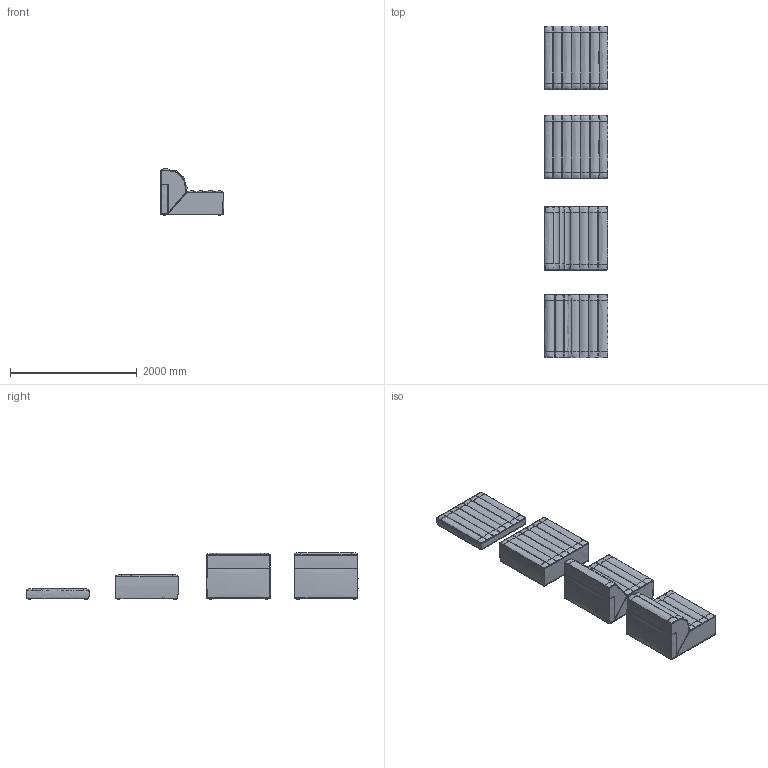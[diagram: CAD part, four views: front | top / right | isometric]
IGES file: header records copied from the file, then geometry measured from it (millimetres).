
Global section: file name: \\fs\Gruppi\Tec-R&D-Ope\BLOCCHI 2D-3D\_ACERBIS\FREE SYSTEM\3D\Free System.igs; native system: Rhinoceros ( Feb 27 2023 ); preprocessor: Trout Lake IGES 012 Feb 27 2023; date: 230405.074549; units: millimetre
Bounding box: 1007.81 x 5249.14 x 739.8 mm (x, y, z)
Surface area: 24980251.6 mm2 (no closed solid volume)
Topology: 0 solids, 0 shells, 595 faces, 3695 edges, 3456 vertices
Faces by surface type: bspline 595
